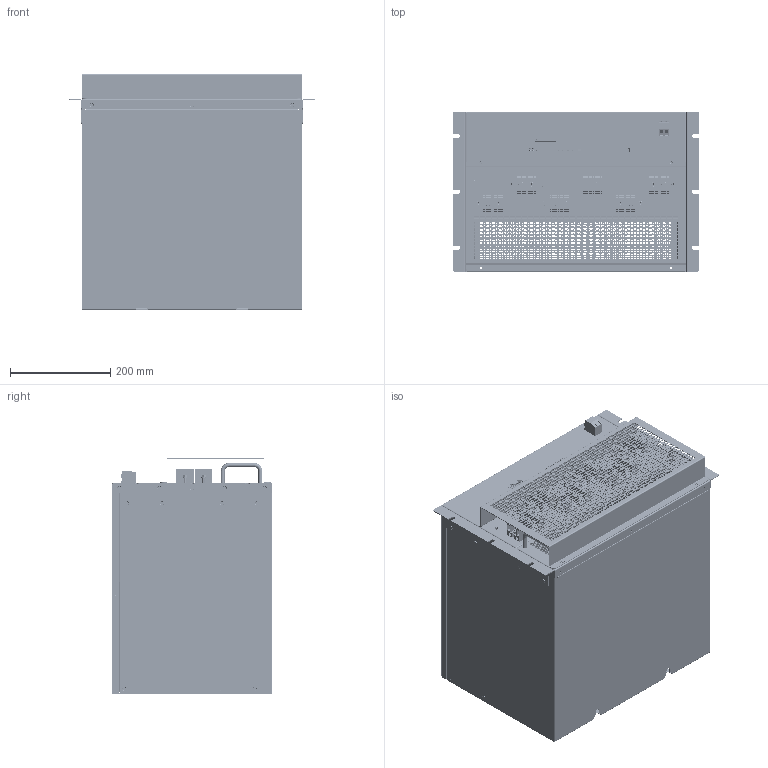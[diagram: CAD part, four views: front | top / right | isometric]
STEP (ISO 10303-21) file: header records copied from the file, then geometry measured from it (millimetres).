
FILE_DESCRIPTION (( 'STEP AP214' ), '1' );
FILE_NAME ('STS200HC_»ú¿Ç-V0.STEP', '2023-10-07T12:49:00', ( '' ), ( '' ), 'SwSTEP 2.0', 'SolidWorks 2018', '' );
FILE_SCHEMA (( 'AUTOMOTIVE_DESIGN' ));
Length unit declared in the file: millimetre
Products named in the file (98): AC傷赽郪璃_asm; M4X8坋趼麥芛蹟隊_GB819; m5x20_gb9074_13_asm; PD80-02_ASM; STS200HC-001_狟褲; DB2ERH-3.81-2x10P-GN; KF2EDGRHM-5.0(6P); STS200HC_儂褲-V0; 腑-奻綻狟蟯; 0707073_hdfk10_select; 000-脣芛3p; 000-厙諳; 000-諉華睫瘍; STS200HC-001_狟褲_ASM; PCB-A1EMS_U1; STS200HC-008_籵瑞啣; LS511-AS75; QCTB10; STS200HC-006_境嫉; STS200HC-003_醱啣_ASM; STS200HC-011_滅誘啣; STS200HC-002_奻裔; 000-厙諳1; STS200HC-009_苤盓傅啣; STS200HC-003_醱啣; PCB-A1EMS_U1_ASM; STS200HC_醱啣郪蚾
Assembly tree (67 placements, depth 4):
  M4X8坋趼麥芛蹟隊_GB819
  m5x20_gb9074_13_asm
  M4X8坋趼麥芛蹟隊_GB819
  M4X8坋趼麥芛蹟隊_GB819
  PD80-02_ASM
Bounding box: 490 x 320 x 470 mm (x, y, z)
Volume: 2049373.3 mm3; surface area: 2540687.8 mm2
Topology: 217 solids, 217 shells, 22741 faces, 62524 edges, 40852 vertices
Faces by surface type: plane 20037, cylinder 1614, cone 874, bspline 184, torus 24, sphere 8
Entity records: 649760 total; most frequent: CARTESIAN_POINT 126368, ORIENTED_EDGE 108504, DIRECTION 94195, EDGE_CURVE 54252, LINE 51321, VECTOR 51321, VERTEX_POINT 35830, EDGE_LOOP 24214
